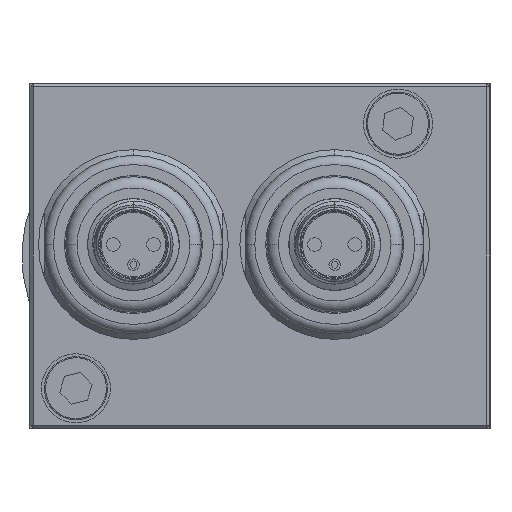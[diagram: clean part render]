
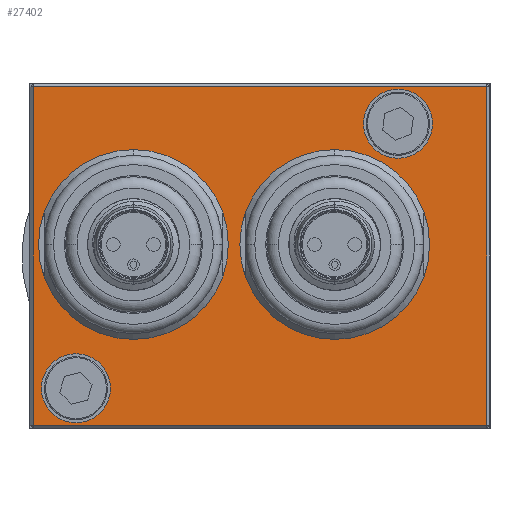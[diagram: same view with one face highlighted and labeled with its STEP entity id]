
A CAD part, left-side view. The second image highlights one B-rep face of the part: STEP entity #27402.
In plain terms, the highlighted planar face has unit normal (-1, 0, 0) as drawn and (1, 0, 0) by its records, which use the part's own axes.
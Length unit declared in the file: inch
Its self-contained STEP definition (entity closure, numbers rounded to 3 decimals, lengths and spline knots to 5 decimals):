
#537 = DIRECTION ( 'NONE',  ( 1., 0., 0. ) ) ;
#709 = VERTEX_POINT ( 'NONE', #11488 ) ;
#968 = CARTESIAN_POINT ( 'NONE',  ( 3.64173, 0.47244, 0.45276 ) ) ;
#1123 = FACE_BOUND ( 'NONE', #40378, .T. ) ;
#1623 = ORIENTED_EDGE ( 'NONE', *, *, #14853, .T. ) ;
#1983 = AXIS2_PLACEMENT_3D ( 'NONE', #8236, #17911, #40605 ) ;
#2819 = CIRCLE ( 'NONE', #18631, 0.3248 ) ;
#2928 = VERTEX_POINT ( 'NONE', #27475 ) ;
#3570 = CIRCLE ( 'NONE', #33159, 0.3248 ) ;
#3929 = EDGE_CURVE ( 'NONE', #40857, #20591, #11073, .T. ) ;
#4491 = EDGE_LOOP ( 'NONE', ( #33535, #30913 ) ) ;
#4611 = DIRECTION ( 'NONE',  ( 0., 0., 1. ) ) ;
#4896 = DIRECTION ( 'NONE',  ( 0., 0., -1. ) ) ;
#5098 = CARTESIAN_POINT ( 'NONE',  ( 3.64173, -0.77559, -0.57874 ) ) ;
#6515 = ORIENTED_EDGE ( 'NONE', *, *, #3929, .T. ) ;
#6694 = EDGE_CURVE ( 'NONE', #19471, #15392, #2819, .T. ) ;
#6913 = LINE ( 'NONE', #20047, #28060 ) ;
#7251 = EDGE_LOOP ( 'NONE', ( #21976, #29300 ) ) ;
#8236 = CARTESIAN_POINT ( 'NONE',  ( 3.64173, 0.47244, 0.45276 ) ) ;
#8902 = ORIENTED_EDGE ( 'NONE', *, *, #34469, .F. ) ;
#8966 = DIRECTION ( 'NONE',  ( 1., 0., 0. ) ) ;
#9149 = CARTESIAN_POINT ( 'NONE',  ( 3.64173, -0.43307, 0.03937 ) ) ;
#10204 = CARTESIAN_POINT ( 'NONE',  ( 3.64173, 0.77559, -0.57874 ) ) ;
#11073 = LINE ( 'NONE', #14523, #28104 ) ;
#11374 = DIRECTION ( 'NONE',  ( 1., 0., 0. ) ) ;
#11488 = CARTESIAN_POINT ( 'NONE',  ( 3.64173, 0.47244, 0.33465 ) ) ;
#11499 = DIRECTION ( 'NONE',  ( 1., 0., 0. ) ) ;
#12096 = LINE ( 'NONE', #32628, #15974 ) ;
#12626 = CARTESIAN_POINT ( 'NONE',  ( 3.64173, 0.47244, 0.57087 ) ) ;
#13020 = DIRECTION ( 'NONE',  ( 0., 0., 1. ) ) ;
#13244 = DIRECTION ( 'NONE',  ( 0., 0., -1. ) ) ;
#13822 = VERTEX_POINT ( 'NONE', #38374 ) ;
#14249 = FACE_BOUND ( 'NONE', #7251, .T. ) ;
#14523 = CARTESIAN_POINT ( 'NONE',  ( 3.64173, 0.77559, 0.59055 ) ) ;
#14853 = EDGE_CURVE ( 'NONE', #20591, #13822, #6913, .T. ) ;
#15172 = ORIENTED_EDGE ( 'NONE', *, *, #6694, .F. ) ;
#15219 = CARTESIAN_POINT ( 'NONE',  ( 3.64173, 0.25591, -0.28543 ) ) ;
#15392 = VERTEX_POINT ( 'NONE', #17700 ) ;
#15669 = EDGE_CURVE ( 'NONE', #13822, #39558, #41024, .T. ) ;
#15974 = VECTOR ( 'NONE', #42119, 39.37008 ) ;
#16391 = EDGE_CURVE ( 'NONE', #15392, #19471, #39731, .T. ) ;
#17015 = AXIS2_PLACEMENT_3D ( 'NONE', #40487, #37268, #4896 ) ;
#17200 = EDGE_CURVE ( 'NONE', #35529, #40707, #23250, .T. ) ;
#17700 = CARTESIAN_POINT ( 'NONE',  ( 3.64173, 0.25591, 0.36417 ) ) ;
#17905 = PLANE ( 'NONE',  #40696 ) ;
#17911 = DIRECTION ( 'NONE',  ( 1., 0., 0. ) ) ;
#18108 = CARTESIAN_POINT ( 'NONE',  ( 3.64173, 0.7874, 0.59055 ) ) ;
#18168 = ORIENTED_EDGE ( 'NONE', *, *, #15669, .T. ) ;
#18631 = AXIS2_PLACEMENT_3D ( 'NONE', #25360, #8966, #18854 ) ;
#18854 = DIRECTION ( 'NONE',  ( 0., 0., 1. ) ) ;
#18881 = EDGE_CURVE ( 'NONE', #40707, #35529, #36422, .T. ) ;
#19159 = AXIS2_PLACEMENT_3D ( 'NONE', #34889, #11374, #41788 ) ;
#19471 = VERTEX_POINT ( 'NONE', #15219 ) ;
#19483 = DIRECTION ( 'NONE',  ( 1., 0., 0. ) ) ;
#20047 = CARTESIAN_POINT ( 'NONE',  ( 3.64173, 0.7874, 0.57874 ) ) ;
#20591 = VERTEX_POINT ( 'NONE', #26199 ) ;
#21976 = ORIENTED_EDGE ( 'NONE', *, *, #34413, .F. ) ;
#22325 = AXIS2_PLACEMENT_3D ( 'NONE', #968, #537, #13244 ) ;
#23250 = CIRCLE ( 'NONE', #17015, 0.11811 ) ;
#24361 = DIRECTION ( 'NONE',  ( 1., 0., 0. ) ) ;
#24694 = CIRCLE ( 'NONE', #1983, 0.11811 ) ;
#25360 = CARTESIAN_POINT ( 'NONE',  ( 3.64173, 0.25591, 0.03937 ) ) ;
#25726 = CARTESIAN_POINT ( 'NONE',  ( 3.64173, -0.43307, -0.28543 ) ) ;
#25940 = AXIS2_PLACEMENT_3D ( 'NONE', #27716, #11499, #29955 ) ;
#26199 = CARTESIAN_POINT ( 'NONE',  ( 3.64173, 0.77559, 0.57874 ) ) ;
#27402 = ADVANCED_FACE ( 'NONE', ( #40814, #1123, #14249, #40598, #37370 ), #17905, .F. ) ;
#27475 = CARTESIAN_POINT ( 'NONE',  ( 3.64173, -0.43307, 0.36417 ) ) ;
#27716 = CARTESIAN_POINT ( 'NONE',  ( 3.64173, 0.25591, 0.03937 ) ) ;
#27886 = CARTESIAN_POINT ( 'NONE',  ( 3.64173, -0.62992, -0.57087 ) ) ;
#28060 = VECTOR ( 'NONE', #33232, 39.37008 ) ;
#28104 = VECTOR ( 'NONE', #4611, 39.37008 ) ;
#28694 = EDGE_CURVE ( 'NONE', #38162, #2928, #3570, .T. ) ;
#28760 = VECTOR ( 'NONE', #35168, 39.37008 ) ;
#29300 = ORIENTED_EDGE ( 'NONE', *, *, #28694, .F. ) ;
#29955 = DIRECTION ( 'NONE',  ( 0., 0., 1. ) ) ;
#30913 = ORIENTED_EDGE ( 'NONE', *, *, #18881, .F. ) ;
#31283 = CIRCLE ( 'NONE', #36798, 0.3248 ) ;
#32628 = CARTESIAN_POINT ( 'NONE',  ( 3.64173, 0.7874, -0.57874 ) ) ;
#32667 = EDGE_CURVE ( 'NONE', #39558, #40857, #12096, .T. ) ;
#32926 = ORIENTED_EDGE ( 'NONE', *, *, #32667, .T. ) ;
#33159 = AXIS2_PLACEMENT_3D ( 'NONE', #40787, #24361, #37539 ) ;
#33232 = DIRECTION ( 'NONE',  ( 0., -1., 0. ) ) ;
#33279 = EDGE_LOOP ( 'NONE', ( #1623, #18168, #32926, #6515 ) ) ;
#33535 = ORIENTED_EDGE ( 'NONE', *, *, #17200, .F. ) ;
#33942 = VERTEX_POINT ( 'NONE', #12626 ) ;
#34413 = EDGE_CURVE ( 'NONE', #2928, #38162, #31283, .T. ) ;
#34469 = EDGE_CURVE ( 'NONE', #33942, #709, #42283, .T. ) ;
#34889 = CARTESIAN_POINT ( 'NONE',  ( 3.64173, -0.62992, -0.45276 ) ) ;
#35168 = DIRECTION ( 'NONE',  ( 0., 0., -1. ) ) ;
#35529 = VERTEX_POINT ( 'NONE', #27886 ) ;
#36224 = EDGE_CURVE ( 'NONE', #709, #33942, #24694, .T. ) ;
#36386 = EDGE_LOOP ( 'NONE', ( #39505, #8902 ) ) ;
#36422 = CIRCLE ( 'NONE', #19159, 0.11811 ) ;
#36560 = ORIENTED_EDGE ( 'NONE', *, *, #16391, .F. ) ;
#36798 = AXIS2_PLACEMENT_3D ( 'NONE', #9149, #19483, #13020 ) ;
#37155 = DIRECTION ( 'NONE',  ( -1., 0., 0. ) ) ;
#37268 = DIRECTION ( 'NONE',  ( 1., 0., 0. ) ) ;
#37370 = FACE_BOUND ( 'NONE', #4491, .T. ) ;
#37539 = DIRECTION ( 'NONE',  ( 0., 0., 1. ) ) ;
#38162 = VERTEX_POINT ( 'NONE', #25726 ) ;
#38203 = CARTESIAN_POINT ( 'NONE',  ( 3.64173, -0.77559, 0.59055 ) ) ;
#38280 = CARTESIAN_POINT ( 'NONE',  ( 3.64173, -0.62992, -0.33465 ) ) ;
#38374 = CARTESIAN_POINT ( 'NONE',  ( 3.64173, -0.77559, 0.57874 ) ) ;
#39505 = ORIENTED_EDGE ( 'NONE', *, *, #36224, .F. ) ;
#39558 = VERTEX_POINT ( 'NONE', #5098 ) ;
#39731 = CIRCLE ( 'NONE', #25940, 0.3248 ) ;
#40378 = EDGE_LOOP ( 'NONE', ( #36560, #15172 ) ) ;
#40487 = CARTESIAN_POINT ( 'NONE',  ( 3.64173, -0.62992, -0.45276 ) ) ;
#40598 = FACE_BOUND ( 'NONE', #36386, .T. ) ;
#40605 = DIRECTION ( 'NONE',  ( 0., 0., -1. ) ) ;
#40696 = AXIS2_PLACEMENT_3D ( 'NONE', #18108, #37155, #41224 ) ;
#40707 = VERTEX_POINT ( 'NONE', #38280 ) ;
#40787 = CARTESIAN_POINT ( 'NONE',  ( 3.64173, -0.43307, 0.03937 ) ) ;
#40814 = FACE_OUTER_BOUND ( 'NONE', #33279, .T. ) ;
#40857 = VERTEX_POINT ( 'NONE', #10204 ) ;
#41024 = LINE ( 'NONE', #38203, #28760 ) ;
#41224 = DIRECTION ( 'NONE',  ( 0., 1., 0. ) ) ;
#41788 = DIRECTION ( 'NONE',  ( 0., 0., -1. ) ) ;
#42119 = DIRECTION ( 'NONE',  ( 0., 1., 0. ) ) ;
#42283 = CIRCLE ( 'NONE', #22325, 0.11811 ) ;
